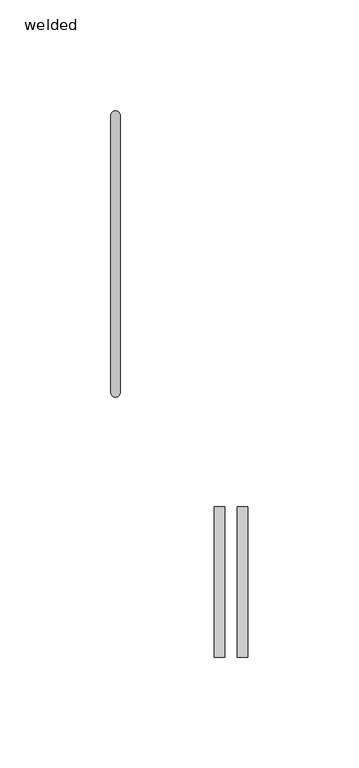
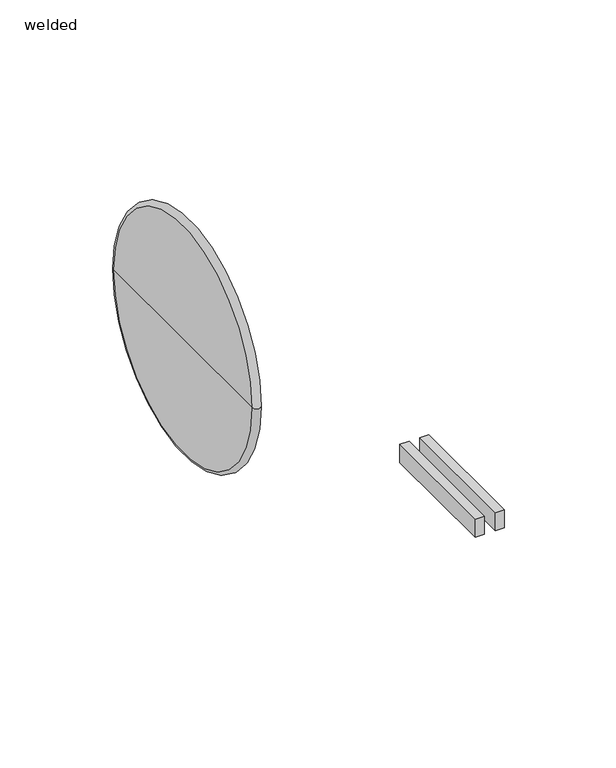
"""IFC4 building model written with IfcOpenShell, lengths in millimetres: pipe fitting geometry, NLRS_52_PIF_UN_HDPE weld_Akatherm : welded."""

from ifc_helpers import new_model, si_unit, point, frame, origin, place, context, project, spatial, polyline, circle_curve, ellipse_curve, trimmed, outline, extrude, source, transform, mapped, element, save
from ifc_brep_helpers import plane_surface, revolved_surface, advanced_brep


def welded_7e5780db(model_context):
    return source(origin(), model_context, "Body", "SolidModel", [
        extrude(outline(polyline([(42.5311847, -181.9421922), (42.5311847, -114.143993), (47.3087456, -114.143993), (47.3087456, -181.9421922), (42.5311847, -181.9421922)])), frame((0.0, 0.0, -15.0), z_axis=(0.0, 0.0, 1.0), x_axis=(1.0, 0.0, 0.0)), (0.0, 0.0, 1.0), 10.0),
        extrude(outline(polyline([(52.9005519, -181.9421922), (52.9005519, -114.143993), (57.6781127, -114.143993), (57.6781127, -181.9421922), (52.9005519, -181.9421922)])), frame((0.0, 0.0, -15.0), z_axis=(0.0, 0.0, 1.0), x_axis=(1.0, 0.0, 0.0)), (0.0, 0.0, 1.0), 10.0),
        advanced_brep(
        [(-4.2, -62.5, 0.0), (-4.2, 62.5, 0.0), (0.0, 62.5, 0.0), (0.0, -62.5, 0.0), (-4.2, 0.0, 0.0), (0.0, 0.0, 0.0)],
        [
            (0, 1, circle_curve(frame((-4.2, 0.0, 0.0), z_axis=(1.0, 0.0, 0.0), x_axis=(0.0, 1.0, 0.0)), 62.5)),
            (1, 2, circle_curve(frame((-2.1, 62.5, 0.0), z_axis=(0.0, 0.0, -1.0), x_axis=(1.0, 0.0, 0.0)), 2.1)),
            (2, 3, circle_curve(frame((0.0, 0.0, 0.0), z_axis=(-1.0, 0.0, 0.0), x_axis=(0.0, 1.0, 0.0)), 62.5)),
            (3, 0, circle_curve(frame((-2.1, -62.5, 0.0), z_axis=(0.0, 0.0, -1.0), x_axis=(1.0, 0.0, 0.0)), 2.1)),
            (1, 0, circle_curve(frame((-4.2, 0.0, 0.0), z_axis=(1.0, 0.0, 0.0), x_axis=(0.0, 1.0, 0.0)), 62.5)),
            (3, 2, circle_curve(frame((0.0, 0.0, 0.0), z_axis=(-1.0, 0.0, 0.0), x_axis=(0.0, 1.0, 0.0)), 62.5)),
            (4, 1),
            (0, 4),
            (2, 5),
            (5, 3),
        ],
        [
            revolved_surface(trimmed(ellipse_curve(frame((-2.1, 62.5, 0.0), z_axis=(0.0, 0.0, 1.0), x_axis=(1.0, 0.0, 0.0)), 2.1, 2.1), [point((0.0, 62.5, 0.0))], [point((-4.2, 62.5, 0.0))], True, "CARTESIAN"), (-42.35, 0.0, 0.0), (-1.0, 0.0, 0.0)),
            plane_surface(frame((-4.2, 0.0, 0.0), z_axis=(-1.0, 0.0, 0.0), x_axis=(0.0, 1.0, 0.0))),
            plane_surface(frame((0.0, 0.0, 0.0), z_axis=(1.0, 0.0, 0.0), x_axis=(0.0, 1.0, 0.0))),
        ],
        [
            (0, [[1, 2, 3, 4]]),
            (0, [[5, -4, 6, -2]]),
            (1, [[7, -1, 8]]),
            (1, [[-8, -5, -7]]),
            (2, [[-3, 9, 10]]),
            (2, [[-6, -10, -9]]),
        ],
    ),
    ])


if __name__ == "__main__":
    model = new_model("IFC4")
    model_context = context("Model", 3, world=origin())
    ifc_project = project(units=[si_unit("LENGTHUNIT", "METRE", prefix="MILLI")], contexts=[model_context])
    site = spatial("IfcSite", under=ifc_project)
    building = spatial("IfcBuilding", under=site)
    placement = place(None, origin())
    welded_shape = welded_7e5780db(model_context)
    element("IfcPipeFitting", 1, ObjectType="NLRS_52_PIF_UN_HDPE weld_Akatherm : welded", at=placement, inside=building, context=model_context, shape_type="MappedRepresentation", body=[
        mapped(welded_shape, transform((0.0, 0.0, 0.0), x_axis=(1.0, 0.0, 0.0), y_axis=(0.0, 1.0, 0.0), z_axis=(0.0, 0.0, 1.0))),
    ])
    save(model, "model.ifc")
